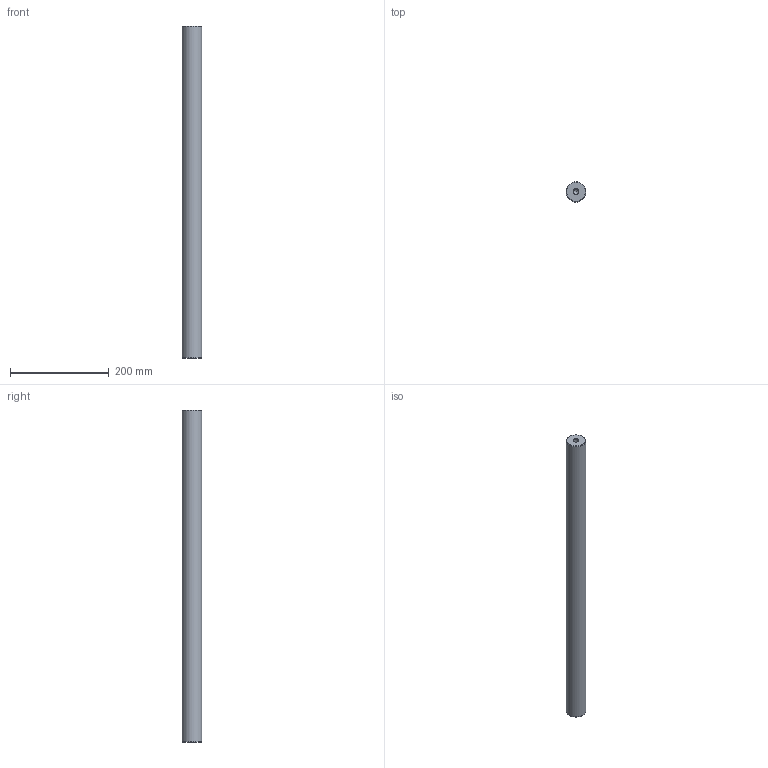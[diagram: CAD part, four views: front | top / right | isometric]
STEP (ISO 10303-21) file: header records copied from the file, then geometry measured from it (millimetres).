
FILE_DESCRIPTION( ( 'STEP AP214' ), '1' );
FILE_NAME( 'U:/Etudes/Top Solid/BIBLIO 3D AVM/STEP/G_GUIDAGE/Accessoires/Colonnes/Ø40x673.step', '2007-06-18T12:31:15', ( ' ' ), ( ' ' ), 'XStep 1.0', ' ', ' ' );
FILE_SCHEMA( ( 'automotive_design' ) );
Length unit declared in the file: metre
Products named in the file (1): 1
Bounding box: 40 x 40 x 673 mm (x, y, z)
Volume: 840357.8 mm3; surface area: 88966.6 mm2
Topology: 1 solids, 1 shells, 13 faces, 27 edges, 16 vertices
Faces by surface type: cone 6, cylinder 5, plane 2
Full cylindrical faces by diameter (mm): 10.106 x4, 40 x1
Entity records: 382 total; most frequent: DIRECTION 52, CARTESIAN_POINT 40, AXIS2_PLACEMENT_3D 26, EDGE_LOOP 24, ORIENTED_EDGE 24, FACE_OUTER_BOUND 18, VERTEX_POINT 14, STYLED_ITEM 13
